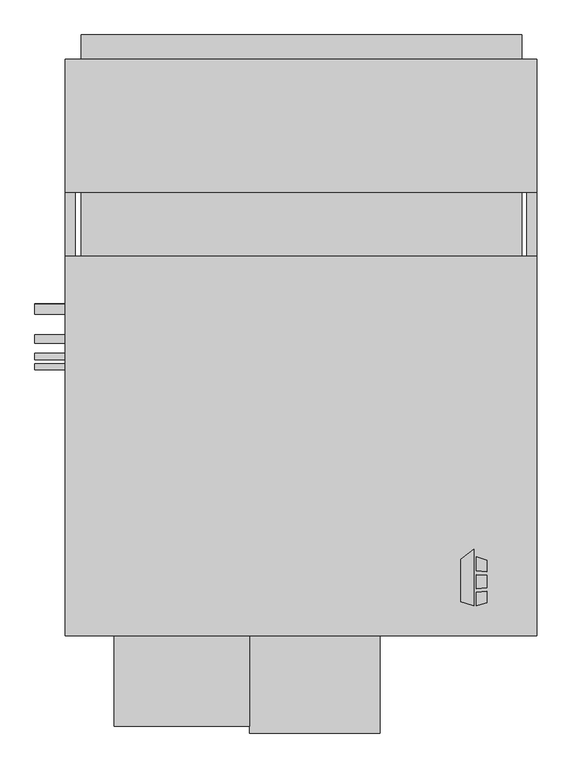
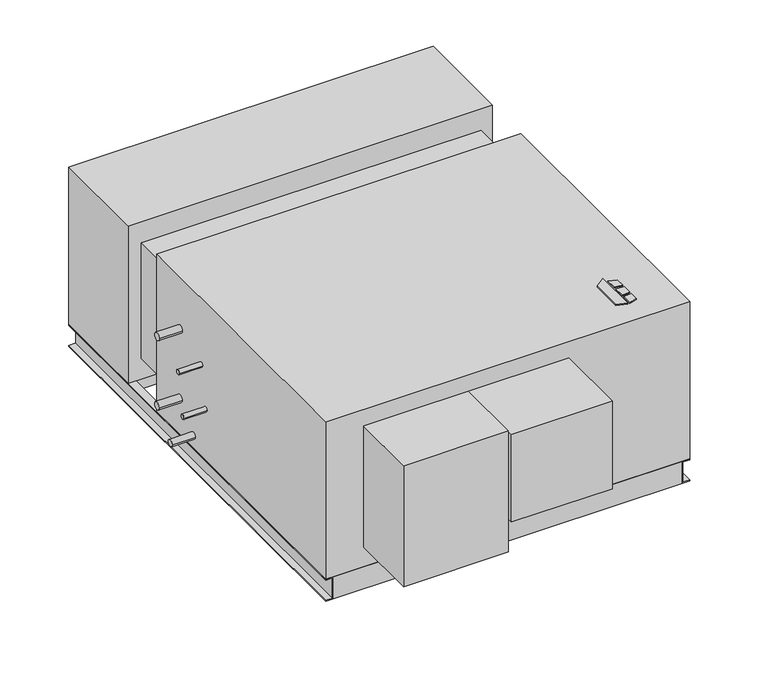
"""IFC4 building model written with IfcOpenShell, lengths in millimetres: proxy geometry, Horizontal_Direct_Drive_Blower_Coil_Unit_-_HDY_-_IEC_-_4-Pipe_NFilterR_W-MixingBox_LH_2022 : Size 16 - 460v/60Hz/3Ph - 6/2 Coil."""

from ifc_helpers import new_model, si_unit, point, frame, frame_2d, origin, origin_with_axes, place, context, project, spatial, polyline, circle_curve, trimmed, segment, composite_curve, outline, extrude, source, transform, mapped, element, save


def mechanical_equipment_3e75f2be(model_context):
    return source(origin(), model_context, "Body", "SweptSolid", [
        extrude(outline(polyline([(-65.3980239, -274.0078476), (-32.8397272, -248.5705184), (-32.8397272, -390.525), (-65.3980239, -380.3054201), (-65.3980239, -274.0078476)])), origin_with_axes(), (0.0, 0.0, 1.0), 3.175),
        extrude(outline(polyline([(-26.0813942, -301.879852), (-26.0813942, -267.3999379), (0.0, -275.5865115), (0.0, -305.0822446), (-26.0813942, -301.879852)])), origin_with_axes(), (0.0, 0.0, 1.0), 3.175),
        extrude(outline(polyline([(0.0, -383.5365115), (-26.0813942, -390.525), (-26.0813942, -357.3036996), (0.0, -353.7618564), (0.0, -383.5365115)])), origin_with_axes(), (0.0, 0.0, 1.0), 3.175),
        extrude(outline(polyline([(0.0, -314.1638277), (0.0, -345.413983), (-26.0813942, -348.155248), (-26.0813942, -312.2975378), (0.0, -314.1638277)])), origin_with_axes(), (0.0, 0.0, 1.0), 3.175),
        extrude(outline(polyline([(88.9, 889.635), (88.9, 686.435), (-1025.525, 686.435), (-1025.525, 889.635), (88.9, 889.635)])), frame((0.0, 0.0, -607.06), z_axis=(0.0, 0.0, 1.0), x_axis=(1.0, 0.0, 0.0)), (0.0, 0.0, 1.0), 60.96),
        extrude(outline(polyline([(-1025.525, 1052.195), (88.9, 1052.195), (88.9, 991.235), (-1025.525, 991.235), (-1025.525, 1052.195)])), frame((0.0, 0.0, -279.4), z_axis=(0.0, 0.0, 1.0), x_axis=(1.0, 0.0, 0.0)), (0.0, 0.0, 1.0), 203.2),
        extrude(outline(polyline([(127.0, 991.235), (127.0, 654.05), (-1066.8, 654.05), (-1066.8, 991.235), (127.0, 991.235)])), frame((0.0, 0.0, -546.1), z_axis=(0.0, 0.0, 1.0), x_axis=(1.0, 0.0, 0.0)), (0.0, 0.0, 1.0), 546.1),
        extrude(outline(polyline([(101.6, -441.325), (101.6, -466.725), (-1041.4, -466.725), (-1041.4, -441.325), (101.6, -441.325)])), frame((0.0, 0.0, -622.3), z_axis=(0.0, 0.0, 1.0), x_axis=(1.0, 0.0, 0.0)), (0.0, 0.0, 1.0), 76.2),
        extrude(outline(polyline([(101.6, 991.235), (101.6, 965.835), (-1041.4, 965.835), (-1041.4, 991.235), (101.6, 991.235)])), frame((0.0, 0.0, -622.3), z_axis=(0.0, 0.0, 1.0), x_axis=(1.0, 0.0, 0.0)), (0.0, 0.0, 1.0), 76.2),
        extrude(outline(polyline([(-546.1, -1041.4), (-546.1, -1066.8), (-549.275, -1066.8), (-549.275, -1044.575), (-619.125, -1044.575), (-619.125, -1066.8), (-622.3, -1066.8), (-622.3, -1041.4), (-546.1, -1041.4)])), frame((0.0, -466.725, 0.0), z_axis=(0.0, 1.0, 0.0), x_axis=(0.0, 0.0, 1.0)), (0.0, 0.0, 1.0), 1457.96),
        extrude(outline(polyline([(-546.1, 101.6), (-622.3, 101.6), (-622.3, 127.0), (-619.125, 127.0), (-619.125, 104.775), (-549.275, 104.775), (-549.275, 127.0), (-546.1, 127.0), (-546.1, 101.6)])), frame((0.0, -466.725, 0.0), z_axis=(0.0, 1.0, 0.0), x_axis=(0.0, 0.0, 1.0)), (0.0, 0.0, 1.0), 1457.96),
        extrude(outline(composite_curve([segment(trimmed(circle_curve(frame_2d((358.775, -177.8)), 12.7), [point((371.475, -177.8))], [point((346.075, -177.8))], False, "CARTESIAN"), True, "CONTINUOUS"), segment(trimmed(circle_curve(frame_2d((358.775, -177.8)), 12.7), [point((346.075, -177.8))], [point((371.475, -177.8))], False, "CARTESIAN"), True, "CONTINUOUS")], self_intersect=False)), frame((-1143.0, 0.0, 0.0), z_axis=(1.0, 0.0, 0.0), x_axis=(0.0, 1.0, 0.0)), (0.0, 0.0, 1.0), 76.2),
        extrude(outline(composite_curve([segment(trimmed(circle_curve(frame_2d((359.642288, -419.1)), 12.7), [point((372.342288, -419.1))], [point((346.942288, -419.1))], False, "CARTESIAN"), True, "CONTINUOUS"), segment(trimmed(circle_curve(frame_2d((359.642288, -419.1)), 12.7), [point((346.942288, -419.1))], [point((372.342288, -419.1))], False, "CARTESIAN"), True, "CONTINUOUS")], self_intersect=False)), frame((-1143.0, 0.0, 0.0), z_axis=(1.0, 0.0, 0.0), x_axis=(0.0, 1.0, 0.0)), (0.0, 0.0, 1.0), 76.2),
        extrude(outline(composite_curve([segment(trimmed(circle_curve(frame_2d((283.442288, -501.65)), 11.1125), [point((294.554788, -501.65))], [point((272.329788, -501.65))], False, "CARTESIAN"), True, "CONTINUOUS"), segment(trimmed(circle_curve(frame_2d((283.442288, -501.65)), 11.1125), [point((272.329788, -501.65))], [point((294.554788, -501.65))], False, "CARTESIAN"), True, "CONTINUOUS")], self_intersect=False)), frame((-1143.0, 0.0, 0.0), z_axis=(1.0, 0.0, 0.0), x_axis=(0.0, 1.0, 0.0)), (0.0, 0.0, 1.0), 76.2),
        extrude(outline(composite_curve([segment(trimmed(circle_curve(frame_2d((238.992288, -228.6)), 7.9375), [point((246.929788, -228.6))], [point((231.054788, -228.6))], False, "CARTESIAN"), True, "CONTINUOUS"), segment(trimmed(circle_curve(frame_2d((238.992288, -228.6)), 7.9375), [point((231.054788, -228.6))], [point((246.929788, -228.6))], False, "CARTESIAN"), True, "CONTINUOUS")], self_intersect=False)), frame((-1143.0, 0.0, 0.0), z_axis=(1.0, 0.0, 0.0), x_axis=(0.0, 1.0, 0.0)), (0.0, 0.0, 1.0), 76.2),
        extrude(outline(composite_curve([segment(trimmed(circle_curve(frame_2d((213.592288, -368.5792556)), 7.9375), [point((221.529788, -368.5792556))], [point((205.654788, -368.5792556))], False, "CARTESIAN"), True, "CONTINUOUS"), segment(trimmed(circle_curve(frame_2d((213.592288, -368.5792556)), 7.9375), [point((205.654788, -368.5792556))], [point((221.529788, -368.5792556))], False, "CARTESIAN"), True, "CONTINUOUS")], self_intersect=False)), frame((-1143.0, 0.0, 0.0), z_axis=(1.0, 0.0, 0.0), x_axis=(0.0, 1.0, 0.0)), (0.0, 0.0, 1.0), 76.2),
        extrude(outline(polyline([(127.0, 492.125), (127.0, -466.725), (-1066.8, -466.725), (-1066.8, 492.125), (127.0, 492.125)])), frame((0.0, 0.0, -546.1), z_axis=(0.0, 0.0, 1.0), x_axis=(1.0, 0.0, 0.0)), (0.0, 0.0, 1.0), 546.1),
        extrude(outline(polyline([(-600.075, -695.325), (-942.975, -695.325), (-942.975, -466.725), (-600.075, -466.725), (-600.075, -695.325)])), frame((0.0, 0.0, -476.25), z_axis=(0.0, 0.0, 1.0), x_axis=(1.0, 0.0, 0.0)), (0.0, 0.0, 1.0), 419.1),
        extrude(outline(polyline([(-1025.525, 654.05), (88.9, 654.05), (88.9, 492.125), (-1025.525, 492.125), (-1025.525, 654.05)])), frame((0.0, 0.0, -473.075), z_axis=(0.0, 0.0, 1.0), x_axis=(1.0, 0.0, 0.0)), (0.0, 0.0, 1.0), 400.05),
        extrude(outline(polyline([(-269.875, -712.7875), (-600.075, -712.7875), (-600.075, -466.725), (-269.875, -466.725), (-269.875, -712.7875)])), frame((0.0, 0.0, -361.95), z_axis=(0.0, 0.0, 1.0), x_axis=(1.0, 0.0, 0.0)), (0.0, 0.0, 1.0), 304.8),
    ])


if __name__ == "__main__":
    model = new_model("IFC4")
    model_context = context("Model", 3, world=origin())
    ifc_project = project(units=[si_unit("LENGTHUNIT", "METRE", prefix="MILLI")], contexts=[model_context])
    site = spatial("IfcSite", under=ifc_project)
    building = spatial("IfcBuilding", under=site)
    placement = place(None, origin())
    mechanical_equipment_shape = mechanical_equipment_3e75f2be(model_context)
    element("IfcBuildingElementProxy", 1, Name="Horizontal_Direct_Drive_Blower_Coil_Unit_-_HDY_-_IEC_-_4-Pipe_NFilterR_W-MixingBox_LH_2022 : Size 16 - 460v/60Hz/3Ph - 6/2 Coil", ObjectType="Horizontal_Direct_Drive_Blower_Coil_Unit_-_HDY_-_IEC_-_4-Pipe_NFilterR_W-MixingBox_LH_2022 : Size 16 - 460v/60Hz/3Ph - 6/2 Coil", at=placement, inside=building, context=model_context, shape_type="MappedRepresentation", body=[
        mapped(mechanical_equipment_shape, transform((0.0, 0.0, 0.0), x_axis=(1.0, 0.0, 0.0), y_axis=(0.0, 1.0, 0.0), z_axis=(0.0, 0.0, 1.0))),
    ])
    save(model, "model.ifc")
